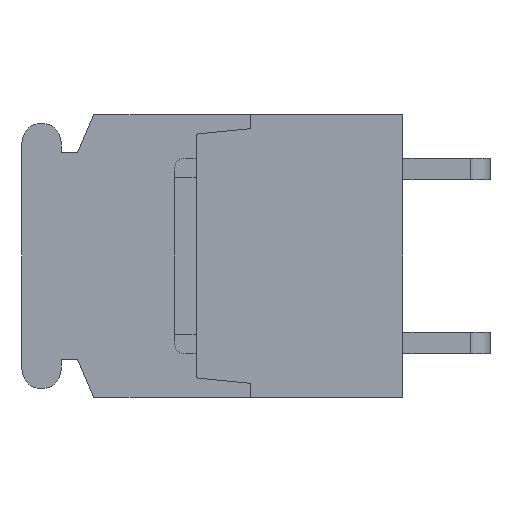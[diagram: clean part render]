
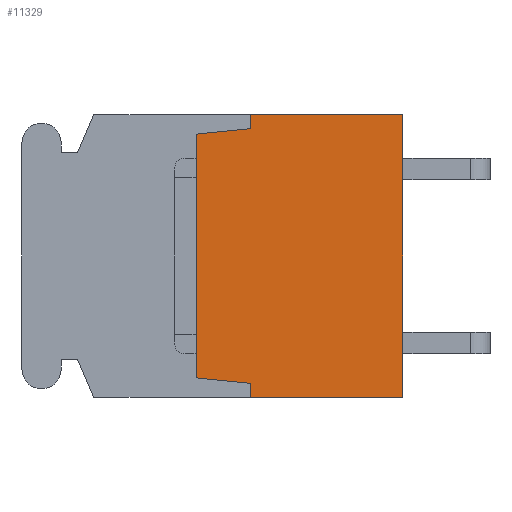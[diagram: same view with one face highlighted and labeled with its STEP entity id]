
A CAD part, left-side view. The second image highlights one B-rep face of the part: STEP entity #11329.
In plain terms, the highlighted planar face has unit normal (-1, 0, 0).
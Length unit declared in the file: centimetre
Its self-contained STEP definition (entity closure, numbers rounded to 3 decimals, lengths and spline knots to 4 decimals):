
#1088=VECTOR('',#12957,1.);
#1127=VECTOR('',#13012,1.);
#1256=VECTOR('',#13326,1.);
#1405=VECTOR('',#13677,1.);
#1406=VECTOR('',#13678,1.);
#1407=VECTOR('',#13679,1.);
#1408=VECTOR('',#13680,1.);
#1409=VECTOR('',#13681,1.);
#2386=LINE('',#16256,#1088);
#2425=LINE('',#16337,#1127);
#2554=LINE('',#16746,#1256);
#2703=LINE('',#17202,#1405);
#2704=LINE('',#17204,#1406);
#2705=LINE('',#17206,#1407);
#2706=LINE('',#17208,#1408);
#2707=LINE('',#17210,#1409);
#3650=VERTEX_POINT('',#16255);
#3651=VERTEX_POINT('',#16257);
#3667=VERTEX_POINT('',#16309);
#3680=VERTEX_POINT('',#16336);
#3934=VERTEX_POINT('',#17203);
#3935=VERTEX_POINT('',#17205);
#3936=VERTEX_POINT('',#17207);
#3937=VERTEX_POINT('',#17209);
#5153=EDGE_CURVE('',#3650,#3651,#2386,.T.);
#5194=EDGE_CURVE('',#3680,#3667,#2425,.T.);
#5378=EDGE_CURVE('',#3667,#3650,#2554,.T.);
#5585=EDGE_CURVE('',#3934,#3680,#2703,.T.);
#5586=EDGE_CURVE('',#3935,#3934,#2704,.T.);
#5587=EDGE_CURVE('',#3936,#3935,#2705,.T.);
#5588=EDGE_CURVE('',#3937,#3936,#2706,.T.);
#5589=EDGE_CURVE('',#3651,#3937,#2707,.T.);
#8439=ORIENTED_EDGE('',*,*,#5378,.F.);
#8440=ORIENTED_EDGE('',*,*,#5194,.F.);
#8441=ORIENTED_EDGE('',*,*,#5585,.F.);
#8442=ORIENTED_EDGE('',*,*,#5586,.F.);
#8443=ORIENTED_EDGE('',*,*,#5587,.F.);
#8444=ORIENTED_EDGE('',*,*,#5588,.F.);
#8445=ORIENTED_EDGE('',*,*,#5589,.F.);
#8446=ORIENTED_EDGE('',*,*,#5153,.F.);
#9961=EDGE_LOOP('',(#8439,#8440,#8441,#8442,#8443,#8444,#8445,#8446));
#10675=FACE_BOUND('',#9961,.T.);
#11329=ADVANCED_FACE('',(#10675),#11854,.F.);
#11854=PLANE('',#19231);
#12957=DIRECTION('',(0.,1.,0.));
#13012=DIRECTION('',(0.,-1.,0.));
#13326=DIRECTION('',(0.,0.,-1.));
#13676=DIRECTION('',(1.,0.,0.));
#13677=DIRECTION('',(0.,0.,1.));
#13678=DIRECTION('',(0.,-0.995,0.1));
#13679=DIRECTION('',(0.,0.,1.));
#13680=DIRECTION('',(0.,0.995,0.1));
#13681=DIRECTION('',(0.,0.,1.));
#16255=CARTESIAN_POINT('',(-1.84,0.,-0.65));
#16256=CARTESIAN_POINT('',(-1.84,0.,-0.65));
#16257=CARTESIAN_POINT('',(-1.84,0.7,-0.65));
#16309=CARTESIAN_POINT('',(-1.84,0.,0.65));
#16336=CARTESIAN_POINT('',(-1.84,0.7,0.65));
#16337=CARTESIAN_POINT('',(-1.84,0.7,0.65));
#16746=CARTESIAN_POINT('',(-1.84,0.,0.65));
#17201=CARTESIAN_POINT('',(-1.84,0.4626,0.));
#17202=CARTESIAN_POINT('',(-1.84,0.7,0.585));
#17203=CARTESIAN_POINT('',(-1.84,0.7,0.585));
#17204=CARTESIAN_POINT('',(-1.84,0.95,0.56));
#17205=CARTESIAN_POINT('',(-1.84,0.95,0.56));
#17206=CARTESIAN_POINT('',(-1.84,0.95,-0.56));
#17207=CARTESIAN_POINT('',(-1.84,0.95,-0.56));
#17208=CARTESIAN_POINT('',(-1.84,0.7,-0.585));
#17209=CARTESIAN_POINT('',(-1.84,0.7,-0.585));
#17210=CARTESIAN_POINT('',(-1.84,0.7,-0.65));
#19231=AXIS2_PLACEMENT_3D('',#17201,#13676,$);
